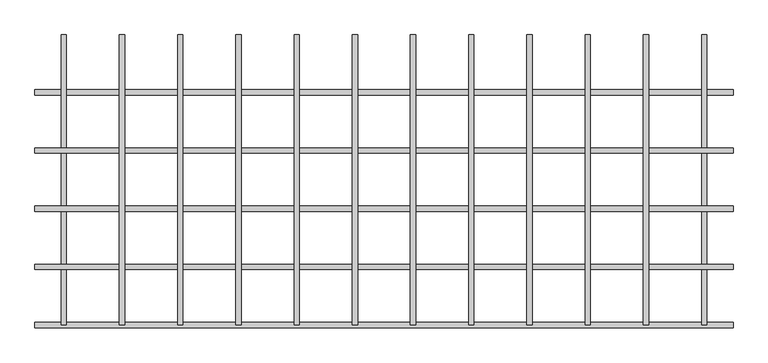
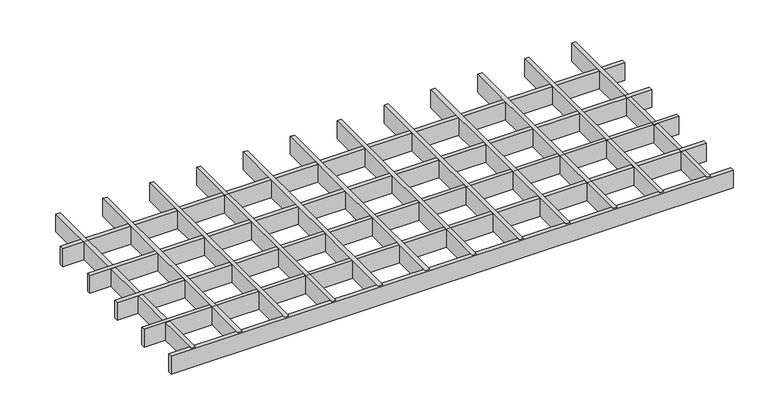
"""IFC4 building model written with IfcOpenShell, lengths in millimetres: proxy geometry, durlum_GEO_panel : durlum_GEO_9_width_cut."""

import ifcopenshell
import ifcopenshell.guid

model = None  # the IFC model being written
_history = None  # IfcOwnerHistory: only IFC2X3 demands one
_inside = {}  # id of a spatial element -> (the spatial element, [elements in it])
_under = {}  # id of a project, library or spatial element -> (it, [spatial elements below it])
_declared = {}  # id of a project -> (the project, [libraries it declares])
_typed = {}  # id of a type object -> (the type object, [elements of that type])
_made_of = {}  # id of a material, layer set ... -> (it, [elements and type objects made of it])


def new_model(schema):
    """Start an empty IFC model of exactly this schema.

    Asked for "IFC4X3", IfcOpenShell would pick the latest addendum, in which some entities
    have other attributes; the version numbers below select the first issue.
    IFC2X3 requires an IfcOwnerHistory on every rooted entity: one is made here for all.
    """
    global model, _history
    if schema == "IFC4X3":
        model = ifcopenshell.file(schema_version=(4, 3, 0, 0))
    else:
        model = ifcopenshell.file(schema=schema)
    _inside.clear()
    _under.clear()
    _declared.clear()
    _typed.clear()
    _made_of.clear()
    _history = None
    if model.schema == "IFC2X3":
        org = make("IfcOrganization", Name="unknown")
        user = make(
            "IfcPersonAndOrganization",
            ThePerson=make("IfcPerson", FamilyName="unknown"),
            TheOrganization=org,
        )
        app = make(
            "IfcApplication",
            ApplicationDeveloper=org,
            Version="unknown",
            ApplicationFullName="unknown",
            ApplicationIdentifier="unknown",
        )
        _history = make(
            "IfcOwnerHistory",
            OwningUser=user,
            OwningApplication=app,
            ChangeAction="ADDED",
            CreationDate=0,
        )
    return model


def make(cls, **values):
    """One entity of the class cls with the attributes given. An attribute that is None is left unset."""
    return model.create_entity(
        cls, **{name: value for name, value in values.items() if value is not None}
    )


def rooted(cls, **values):
    """An entity with a GlobalId (a new one), such as an element, a storey or a relation."""
    return make(cls, GlobalId=ifcopenshell.guid.new(), OwnerHistory=_history, **values)


def si_unit(unit_type, name, prefix=None):
    """IfcSIUnit, for example si_unit("LENGTHUNIT", "METRE", prefix="MILLI")."""
    return make("IfcSIUnit", UnitType=unit_type, Prefix=prefix, Name=name)


def assignment(units):
    """IfcUnitAssignment: the units of a project."""
    return None if units is None else make("IfcUnitAssignment", Units=units)


def point(xyz):
    """IfcCartesianPoint."""
    return None if xyz is None else make("IfcCartesianPoint", Coordinates=xyz)


def direction(xyz):
    """IfcDirection."""
    return None if xyz is None else make("IfcDirection", DirectionRatios=xyz)


def frame(location, z_axis=None, x_axis=None):
    """IfcAxis2Placement3D, a coordinate frame: its origin and axes. An axis left out is left unset."""
    return make(
        "IfcAxis2Placement3D",
        Location=point(location),
        Axis=direction(z_axis),
        RefDirection=direction(x_axis),
    )


def origin():
    """The frame at (0, 0, 0) with its axes left unset."""
    return frame((0.0, 0.0, 0.0))


def origin_with_axes():
    """The frame at (0, 0, 0) with the z axis (0, 0, 1) and the x axis (1, 0, 0) written out."""
    return frame((0.0, 0.0, 0.0), z_axis=(0.0, 0.0, 1.0), x_axis=(1.0, 0.0, 0.0))


def place(relative_to, where):
    """IfcLocalPlacement: puts the frame where relative to a parent placement (None: the world)."""
    return make(
        "IfcLocalPlacement", PlacementRelTo=relative_to, RelativePlacement=where
    )


def context(
    kind, dimensions, precision=None, world=None, true_north=None, identifier=None
):
    """IfcGeometricRepresentationContext, for example the 3D "Model" context."""
    return make(
        "IfcGeometricRepresentationContext",
        ContextIdentifier=identifier,
        ContextType=kind,
        CoordinateSpaceDimension=dimensions,
        Precision=precision,
        WorldCoordinateSystem=world,
        TrueNorth=true_north,
    )


def project(units=None, contexts=None):
    """IfcProject with its units and contexts."""
    return rooted(
        "IfcProject",
        Name="project",
        RepresentationContexts=contexts,
        UnitsInContext=assignment(units),
    )


def spatial(cls, under=None, at=None, **own):
    """A site, building, storey or space (cls), placed at a placement, below another one or the project."""
    s = rooted(cls, ObjectPlacement=at, **own)
    if under is not None:
        _under.setdefault(under.id(), (under, []))[1].append(s)
    return s


def polyline(points):
    """IfcPolyline through the points."""
    return make("IfcPolyline", Points=[point(p) for p in points])


def outline(outer, holes=None, kind="AREA"):
    """IfcArbitraryClosedProfileDef: a profile drawn as a closed curve; with holes, ...WithVoids."""
    if holes is None:
        return make("IfcArbitraryClosedProfileDef", ProfileType=kind, OuterCurve=outer)
    return make(
        "IfcArbitraryProfileDefWithVoids",
        ProfileType=kind,
        OuterCurve=outer,
        InnerCurves=holes,
    )


def extrude(swept, where, along, depth):
    """IfcExtrudedAreaSolid: the profile swept, set in the frame where, extruded along a direction by depth."""
    return make(
        "IfcExtrudedAreaSolid",
        SweptArea=swept,
        Position=where,
        ExtrudedDirection=direction(along),
        Depth=depth,
    )


def shape(context_of_items, identifier, shape_type, items):
    """IfcShapeRepresentation: the items that make up one representation, for example the "Body"."""
    return make(
        "IfcShapeRepresentation",
        ContextOfItems=context_of_items,
        RepresentationIdentifier=identifier,
        RepresentationType=shape_type,
        Items=items,
    )


def source(mapping_origin, context_of_items, identifier, shape_type, items):
    """IfcRepresentationMap: a shape defined once, which mapped items show again and again."""
    return make(
        "IfcRepresentationMap",
        MappingOrigin=mapping_origin,
        MappedRepresentation=shape(context_of_items, identifier, shape_type, items),
    )


def transform(
    local_origin,
    x_axis=None,
    y_axis=None,
    z_axis=None,
    scale=None,
    scale2=None,
    scale3=None,
    uniform=True,
):
    """IfcCartesianTransformationOperator3D, or its non-uniform kind. x_axis, y_axis, z_axis: its Axis1, 2, 3."""
    if uniform:
        return make(
            "IfcCartesianTransformationOperator3D",
            Axis1=direction(x_axis),
            Axis2=direction(y_axis),
            LocalOrigin=point(local_origin),
            Scale=scale,
            Axis3=direction(z_axis),
        )
    return make(
        "IfcCartesianTransformationOperator3DnonUniform",
        Axis1=direction(x_axis),
        Axis2=direction(y_axis),
        LocalOrigin=point(local_origin),
        Scale=scale,
        Axis3=direction(z_axis),
        Scale2=scale2,
        Scale3=scale3,
    )


def mapped(mapping_source, mapping_target):
    """IfcMappedItem: shows the shape of a source again, moved by a transform."""
    return make(
        "IfcMappedItem", MappingSource=mapping_source, MappingTarget=mapping_target
    )


def made_of(thing, what):
    """Note that an element or type object is made of a material, layer set ...; save() writes the relation."""
    if what is not None:
        _made_of.setdefault(what.id(), (what, []))[1].append(thing)
    return thing


def element(
    cls,
    number,
    at=None,
    inside=None,
    cuts=None,
    type_object=None,
    material=None,
    context=None,
    identifier="Body",
    shape_type=None,
    held_by="IfcProductDefinitionShape",
    body=None,
    shapes=None,
    **own,
):
    """One element of the class cls, such as IfcWall. Its Tag is "e" and its number.

    at: its placement. inside: the storey or other place that contains it. cuts: it is an
    opening in that element (IfcRelVoidsElement). A single representation is given by context,
    identifier, shape_type and body (its items); several are given by shapes. held_by: the class
    of the entity that holds the representations. save() writes the other relations.
    """
    e = rooted(cls, Tag="e%d" % number, ObjectPlacement=at, **own)
    if body is not None:
        shapes = [shape(context, identifier, shape_type, body)]
    if shapes is not None:
        e.Representation = make(held_by, Representations=shapes)
    if inside is not None:
        _inside.setdefault(inside.id(), (inside, []))[1].append(e)
    if cuts is not None:
        rooted(
            "IfcRelVoidsElement", RelatingBuildingElement=cuts, RelatedOpeningElement=e
        )
    if type_object is not None:
        _typed.setdefault(type_object.id(), (type_object, []))[1].append(e)
    return made_of(e, material)


def aggregate(whole, parts):
    """IfcRelAggregates: a whole, such as a stair, and the parts it consists of."""
    return rooted("IfcRelAggregates", RelatingObject=whole, RelatedObjects=parts)


def save(model, path):
    """Write the relations noted so far, then the file.

    IfcRelAggregates (storeys below a building ...), IfcRelContainedInSpatialStructure (elements
    in a storey), IfcRelDefinesByType, IfcRelAssociatesMaterial and IfcRelDeclares: one each for
    every whole, place, type object, material and project.
    """
    for whole, parts in _under.values():
        aggregate(whole, parts)
    for where, things in _inside.values():
        rooted(
            "IfcRelContainedInSpatialStructure",
            RelatedElements=things,
            RelatingStructure=where,
        )
    for kind, things in _typed.values():
        rooted("IfcRelDefinesByType", RelatedObjects=things, RelatingType=kind)
    for what, things in _made_of.values():
        rooted("IfcRelAssociatesMaterial", RelatedObjects=things, RelatingMaterial=what)
    for by, libraries in _declared.values():
        rooted("IfcRelDeclares", RelatingContext=by, RelatedDefinitions=libraries)
    model.write(path)


def generic_models_45dab3f8(model_context):
    return source(origin(), model_context, "Body", "SweptSolid", [
        extrude(outline(polyline([(445.5, 249.5), (454.5, 249.5), (454.5, -249.5), (445.5, -249.5), (445.5, 249.5)])), origin_with_axes(), (0.0, 0.0, 1.0), 40.0),
        extrude(outline(polyline([(345.5, 249.5), (354.5, 249.5), (354.5, -249.5), (345.5, -249.5), (345.5, 249.5)])), origin_with_axes(), (0.0, 0.0, 1.0), 40.0),
        extrude(outline(polyline([(245.5, 249.5), (254.5, 249.5), (254.5, -249.5), (245.5, -249.5), (245.5, 249.5)])), origin_with_axes(), (0.0, 0.0, 1.0), 40.0),
        extrude(outline(polyline([(145.5, 249.5), (154.5, 249.5), (154.5, -249.5), (145.5, -249.5), (145.5, 249.5)])), origin_with_axes(), (0.0, 0.0, 1.0), 40.0),
        extrude(outline(polyline([(45.5, 249.5), (54.5, 249.5), (54.5, -249.5), (45.5, -249.5), (45.5, 249.5)])), origin_with_axes(), (0.0, 0.0, 1.0), 40.0),
        extrude(outline(polyline([(-54.5, 249.5), (-45.5, 249.5), (-45.5, -249.5), (-54.5, -249.5), (-54.5, 249.5)])), origin_with_axes(), (0.0, 0.0, 1.0), 40.0),
        extrude(outline(polyline([(-154.5, 249.5), (-145.5, 249.5), (-145.5, -249.5), (-154.5, -249.5), (-154.5, 249.5)])), origin_with_axes(), (0.0, 0.0, 1.0), 40.0),
        extrude(outline(polyline([(-254.5, 249.5), (-245.5, 249.5), (-245.5, -249.5), (-254.5, -249.5), (-254.5, 249.5)])), origin_with_axes(), (0.0, 0.0, 1.0), 40.0),
        extrude(outline(polyline([(-354.5, 249.5), (-345.5, 249.5), (-345.5, -249.5), (-354.5, -249.5), (-354.5, 249.5)])), origin_with_axes(), (0.0, 0.0, 1.0), 40.0),
        extrude(outline(polyline([(-454.5, 249.5), (-445.5, 249.5), (-445.5, -249.5), (-454.5, -249.5), (-454.5, 249.5)])), origin_with_axes(), (0.0, 0.0, 1.0), 40.0),
        extrude(outline(polyline([(599.5, -145.0), (599.5, -154.0), (-599.5, -154.0), (-599.5, -145.0), (599.5, -145.0)])), origin_with_axes(), (0.0, 0.0, 1.0), 40.0),
        extrude(outline(polyline([(599.5, -45.0), (599.5, -54.0), (-599.5, -54.0), (-599.5, -45.0), (599.5, -45.0)])), origin_with_axes(), (0.0, 0.0, 1.0), 40.0),
        extrude(outline(polyline([(599.5, 55.0), (599.5, 46.0), (-599.5, 46.0), (-599.5, 55.0), (599.5, 55.0)])), origin_with_axes(), (0.0, 0.0, 1.0), 40.0),
        extrude(outline(polyline([(545.5, 249.5), (554.5, 249.5), (554.5, -249.5), (545.5, -249.5), (545.5, 249.5)])), origin_with_axes(), (0.0, 0.0, 1.0), 40.0),
        extrude(outline(polyline([(-554.5, 249.5), (-545.5, 249.5), (-545.5, -249.5), (-554.5, -249.5), (-554.5, 249.5)])), origin_with_axes(), (0.0, 0.0, 1.0), 40.0),
        extrude(outline(polyline([(599.5, -245.0), (599.5, -254.0), (-599.5, -254.0), (-599.5, -245.0), (599.5, -245.0)])), origin_with_axes(), (0.0, 0.0, 1.0), 40.0),
        extrude(outline(polyline([(599.5, 155.0), (599.5, 146.0), (-599.5, 146.0), (-599.5, 155.0), (599.5, 155.0)])), origin_with_axes(), (0.0, 0.0, 1.0), 40.0),
    ])


if __name__ == "__main__":
    model = new_model("IFC4")
    model_context = context("Model", 3, world=origin())
    ifc_project = project(units=[si_unit("LENGTHUNIT", "METRE", prefix="MILLI")], contexts=[model_context])
    site = spatial("IfcSite", under=ifc_project)
    building = spatial("IfcBuilding", under=site)
    placement = place(None, origin())
    generic_models_shape = generic_models_45dab3f8(model_context)
    element("IfcBuildingElementProxy", 1, Name="durlum_GEO_panel : durlum_GEO_9_width_cut", ObjectType="durlum_GEO_panel : durlum_GEO_9_width_cut", at=placement, inside=building, context=model_context, shape_type="MappedRepresentation", body=[
        mapped(generic_models_shape, transform((0.0, 0.0, 0.0), x_axis=(1.0, 0.0, 0.0), y_axis=(0.0, 1.0, 0.0), z_axis=(0.0, 0.0, 1.0))),
    ])
    save(model, "model.ifc")
